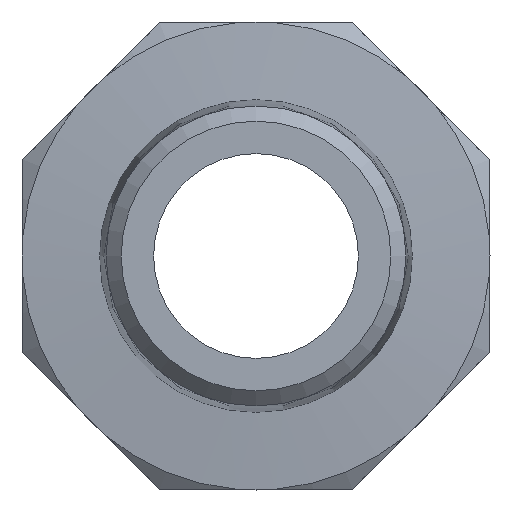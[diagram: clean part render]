
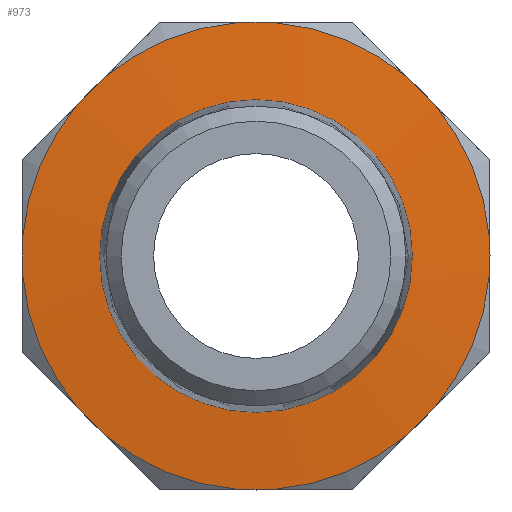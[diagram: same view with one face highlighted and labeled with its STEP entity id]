
A CAD part, left-side view. The second image highlights one B-rep face of the part: STEP entity #973.
In plain terms, the highlighted conical face has half-angle 85 degrees and reference radius 14.044 mm.
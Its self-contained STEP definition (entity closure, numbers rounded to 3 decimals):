
#121=CARTESIAN_POINT('',(15.465,12.219,10.338));
#122=VERTEX_POINT('',#121);
#136=CARTESIAN_POINT('',(15.465,10.338,12.219));
#137=VERTEX_POINT('',#136);
#138=CARTESIAN_POINT('',(15.465,10.338,12.219));
#139=CARTESIAN_POINT('',(15.455,11.278,11.278));
#140=CARTESIAN_POINT('',(15.465,12.219,10.338));
#148=(BOUNDED_CURVE()B_SPLINE_CURVE(2,(#138,#139,#140),.UNSPECIFIED.,.F.,.U.)B_SPLINE_CURVE_WITH_KNOTS((3,3),(1.436,1.756),.UNSPECIFIED.)CURVE()GEOMETRIC_REPRESENTATION_ITEM()RATIONAL_B_SPLINE_CURVE((1.205,1.209,1.205))REPRESENTATION_ITEM(''));
#149=EDGE_CURVE('',#137,#122,#148,.T.);
#367=CARTESIAN_POINT('',(15.465,15.95,-1.33));
#368=VERTEX_POINT('',#367);
#382=CARTESIAN_POINT('',(15.465,15.95,1.33));
#383=VERTEX_POINT('',#382);
#384=CARTESIAN_POINT('',(15.465,15.95,1.33));
#385=CARTESIAN_POINT('',(15.455,15.95,0.));
#386=CARTESIAN_POINT('',(15.465,15.95,-1.33));
#394=(BOUNDED_CURVE()B_SPLINE_CURVE(2,(#384,#385,#386),.UNSPECIFIED.,.F.,.U.)B_SPLINE_CURVE_WITH_KNOTS((3,3),(0.536,0.812),.UNSPECIFIED.)CURVE()GEOMETRIC_REPRESENTATION_ITEM()RATIONAL_B_SPLINE_CURVE((1.041,1.045,1.041))REPRESENTATION_ITEM(''));
#395=EDGE_CURVE('',#383,#368,#394,.T.);
#456=CARTESIAN_POINT('',(15.465,10.338,-12.219));
#457=VERTEX_POINT('',#456);
#471=CARTESIAN_POINT('',(15.465,12.219,-10.338));
#472=VERTEX_POINT('',#471);
#473=CARTESIAN_POINT('',(15.465,12.219,-10.338));
#474=CARTESIAN_POINT('',(15.455,11.278,-11.278));
#475=CARTESIAN_POINT('',(15.465,10.338,-12.219));
#483=(BOUNDED_CURVE()B_SPLINE_CURVE(2,(#473,#474,#475),.UNSPECIFIED.,.F.,.U.)B_SPLINE_CURVE_WITH_KNOTS((3,3),(1.436,1.756),.UNSPECIFIED.)CURVE()GEOMETRIC_REPRESENTATION_ITEM()RATIONAL_B_SPLINE_CURVE((1.205,1.209,1.205))REPRESENTATION_ITEM(''));
#484=EDGE_CURVE('',#472,#457,#483,.T.);
#545=CARTESIAN_POINT('',(15.465,-1.33,-15.95));
#546=VERTEX_POINT('',#545);
#560=CARTESIAN_POINT('',(15.465,1.33,-15.95));
#561=VERTEX_POINT('',#560);
#562=CARTESIAN_POINT('',(15.465,1.33,-15.95));
#563=CARTESIAN_POINT('',(15.455,0.,-15.95));
#564=CARTESIAN_POINT('',(15.465,-1.33,-15.95));
#572=(BOUNDED_CURVE()B_SPLINE_CURVE(2,(#562,#563,#564),.UNSPECIFIED.,.F.,.U.)B_SPLINE_CURVE_WITH_KNOTS((3,3),(0.536,0.812),.UNSPECIFIED.)CURVE()GEOMETRIC_REPRESENTATION_ITEM()RATIONAL_B_SPLINE_CURVE((1.041,1.045,1.041))REPRESENTATION_ITEM(''));
#573=EDGE_CURVE('',#561,#546,#572,.T.);
#634=CARTESIAN_POINT('',(15.465,-12.219,-10.338));
#635=VERTEX_POINT('',#634);
#649=CARTESIAN_POINT('',(15.465,-10.338,-12.219));
#650=VERTEX_POINT('',#649);
#651=CARTESIAN_POINT('',(15.465,-10.338,-12.219));
#652=CARTESIAN_POINT('',(15.455,-11.278,-11.278));
#653=CARTESIAN_POINT('',(15.465,-12.219,-10.338));
#661=(BOUNDED_CURVE()B_SPLINE_CURVE(2,(#651,#652,#653),.UNSPECIFIED.,.F.,.U.)B_SPLINE_CURVE_WITH_KNOTS((3,3),(1.436,1.756),.UNSPECIFIED.)CURVE()GEOMETRIC_REPRESENTATION_ITEM()RATIONAL_B_SPLINE_CURVE((1.205,1.209,1.205))REPRESENTATION_ITEM(''));
#662=EDGE_CURVE('',#650,#635,#661,.T.);
#723=CARTESIAN_POINT('',(15.465,-15.95,1.33));
#724=VERTEX_POINT('',#723);
#738=CARTESIAN_POINT('',(15.465,-15.95,-1.33));
#739=VERTEX_POINT('',#738);
#740=CARTESIAN_POINT('',(15.465,-15.95,-1.33));
#741=CARTESIAN_POINT('',(15.455,-15.95,0.));
#742=CARTESIAN_POINT('',(15.465,-15.95,1.33));
#750=(BOUNDED_CURVE()B_SPLINE_CURVE(2,(#740,#741,#742),.UNSPECIFIED.,.F.,.U.)B_SPLINE_CURVE_WITH_KNOTS((3,3),(0.536,0.812),.UNSPECIFIED.)CURVE()GEOMETRIC_REPRESENTATION_ITEM()RATIONAL_B_SPLINE_CURVE((1.041,1.045,1.041))REPRESENTATION_ITEM(''));
#751=EDGE_CURVE('',#739,#724,#750,.T.);
#812=CARTESIAN_POINT('',(15.465,-10.338,12.219));
#813=VERTEX_POINT('',#812);
#827=CARTESIAN_POINT('',(15.465,-12.219,10.338));
#828=VERTEX_POINT('',#827);
#829=CARTESIAN_POINT('',(15.465,-12.219,10.338));
#830=CARTESIAN_POINT('',(15.455,-11.278,11.278));
#831=CARTESIAN_POINT('',(15.465,-10.338,12.219));
#839=(BOUNDED_CURVE()B_SPLINE_CURVE(2,(#829,#830,#831),.UNSPECIFIED.,.F.,.U.)B_SPLINE_CURVE_WITH_KNOTS((3,3),(1.436,1.756),.UNSPECIFIED.)CURVE()GEOMETRIC_REPRESENTATION_ITEM()RATIONAL_B_SPLINE_CURVE((1.205,1.209,1.205))REPRESENTATION_ITEM(''));
#840=EDGE_CURVE('',#828,#813,#839,.T.);
#875=CARTESIAN_POINT('',(15.294,0.0,0.0));
#876=DIRECTION('',(1.0,0.0,0.0));
#877=DIRECTION('',(0.0,1.0,0.0));
#878=AXIS2_PLACEMENT_3D('',#875,#876,#877);
#879=CONICAL_SURFACE('',#878,14.044,85.0);
#880=CARTESIAN_POINT('',(15.,10.689,0.0));
#881=VERTEX_POINT('',#880);
#882=CARTESIAN_POINT('',(15.,0.0,0.0));
#883=DIRECTION('',(1.0,0.0,0.0));
#884=DIRECTION('',(0.0,1.0,0.0));
#885=AXIS2_PLACEMENT_3D('',#882,#883,#884);
#886=CIRCLE('',#885,10.689);
#887=EDGE_CURVE('',#881,#881,#886,.T.);
#888=ORIENTED_EDGE('',*,*,#887,.T.);
#889=EDGE_LOOP('',(#888));
#890=FACE_OUTER_BOUND('',#889,.T.);
#891=ORIENTED_EDGE('',*,*,#149,.T.);
#892=CARTESIAN_POINT('',(15.465,0.0,0.));
#893=DIRECTION('',(1.0,0.0,0.0));
#894=DIRECTION('',(0.0,-1.0,0.0));
#895=AXIS2_PLACEMENT_3D('',#892,#893,#894);
#896=CIRCLE('',#895,16.005);
#897=EDGE_CURVE('',#383,#122,#896,.T.);
#898=ORIENTED_EDGE('',*,*,#897,.F.);
#899=ORIENTED_EDGE('',*,*,#395,.T.);
#900=CARTESIAN_POINT('',(15.465,0.0,0.));
#901=DIRECTION('',(1.0,0.0,0.0));
#902=DIRECTION('',(0.0,-1.0,0.0));
#903=AXIS2_PLACEMENT_3D('',#900,#901,#902);
#904=CIRCLE('',#903,16.005);
#905=EDGE_CURVE('',#472,#368,#904,.T.);
#906=ORIENTED_EDGE('',*,*,#905,.F.);
#907=ORIENTED_EDGE('',*,*,#484,.T.);
#908=CARTESIAN_POINT('',(15.465,0.0,0.));
#909=DIRECTION('',(1.0,0.0,0.0));
#910=DIRECTION('',(0.0,-1.0,0.0));
#911=AXIS2_PLACEMENT_3D('',#908,#909,#910);
#912=CIRCLE('',#911,16.005);
#913=EDGE_CURVE('',#561,#457,#912,.T.);
#914=ORIENTED_EDGE('',*,*,#913,.F.);
#915=ORIENTED_EDGE('',*,*,#573,.T.);
#916=CARTESIAN_POINT('',(15.465,0.0,0.));
#917=DIRECTION('',(1.0,0.0,0.0));
#918=DIRECTION('',(0.0,-1.0,0.0));
#919=AXIS2_PLACEMENT_3D('',#916,#917,#918);
#920=CIRCLE('',#919,16.005);
#921=EDGE_CURVE('',#650,#546,#920,.T.);
#922=ORIENTED_EDGE('',*,*,#921,.F.);
#923=ORIENTED_EDGE('',*,*,#662,.T.);
#924=CARTESIAN_POINT('',(15.465,0.0,0.));
#925=DIRECTION('',(1.0,0.0,0.0));
#926=DIRECTION('',(0.0,-1.0,0.0));
#927=AXIS2_PLACEMENT_3D('',#924,#925,#926);
#928=CIRCLE('',#927,16.005);
#929=EDGE_CURVE('',#739,#635,#928,.T.);
#930=ORIENTED_EDGE('',*,*,#929,.F.);
#931=ORIENTED_EDGE('',*,*,#751,.T.);
#932=CARTESIAN_POINT('',(15.465,0.0,0.));
#933=DIRECTION('',(1.0,0.0,0.0));
#934=DIRECTION('',(0.0,-1.0,0.0));
#935=AXIS2_PLACEMENT_3D('',#932,#933,#934);
#936=CIRCLE('',#935,16.005);
#937=EDGE_CURVE('',#828,#724,#936,.T.);
#938=ORIENTED_EDGE('',*,*,#937,.F.);
#939=ORIENTED_EDGE('',*,*,#840,.T.);
#940=CARTESIAN_POINT('',(15.465,-1.33,15.95));
#941=VERTEX_POINT('',#940);
#942=CARTESIAN_POINT('',(15.465,0.0,0.));
#943=DIRECTION('',(1.0,0.0,0.0));
#944=DIRECTION('',(0.0,-1.0,0.0));
#945=AXIS2_PLACEMENT_3D('',#942,#943,#944);
#946=CIRCLE('',#945,16.005);
#947=EDGE_CURVE('',#941,#813,#946,.T.);
#948=ORIENTED_EDGE('',*,*,#947,.F.);
#949=CARTESIAN_POINT('',(15.465,1.33,15.95));
#950=VERTEX_POINT('',#949);
#951=CARTESIAN_POINT('',(15.465,-1.33,15.95));
#952=CARTESIAN_POINT('',(15.455,0.,15.95));
#953=CARTESIAN_POINT('',(15.465,1.33,15.95));
#961=(BOUNDED_CURVE()B_SPLINE_CURVE(2,(#951,#952,#953),.UNSPECIFIED.,.F.,.U.)B_SPLINE_CURVE_WITH_KNOTS((3,3),(1.441,1.762),.UNSPECIFIED.)CURVE()GEOMETRIC_REPRESENTATION_ITEM()RATIONAL_B_SPLINE_CURVE((1.206,1.21,1.206))REPRESENTATION_ITEM(''));
#962=EDGE_CURVE('',#941,#950,#961,.T.);
#963=ORIENTED_EDGE('',*,*,#962,.T.);
#964=CARTESIAN_POINT('',(15.465,0.0,0.));
#965=DIRECTION('',(1.0,0.0,0.0));
#966=DIRECTION('',(0.0,-1.0,0.0));
#967=AXIS2_PLACEMENT_3D('',#964,#965,#966);
#968=CIRCLE('',#967,16.005);
#969=EDGE_CURVE('',#137,#950,#968,.T.);
#970=ORIENTED_EDGE('',*,*,#969,.F.);
#971=EDGE_LOOP('',(#891,#898,#899,#906,#907,#914,#915,#922,#923,#930,#931,#938,#939,#948,#963,#970));
#972=FACE_BOUND('',#971,.T.);
#973=ADVANCED_FACE('',(#890,#972),#879,.T.);
